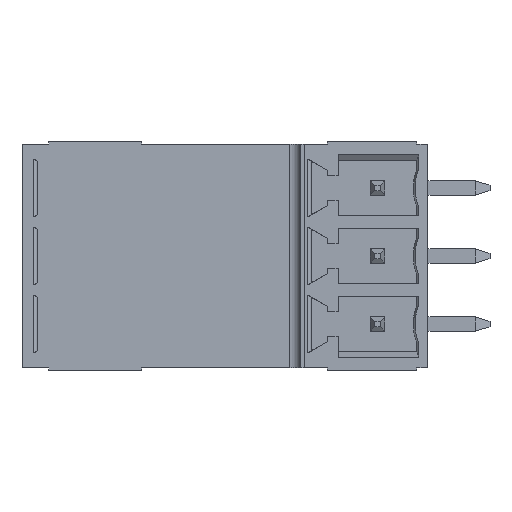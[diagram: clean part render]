
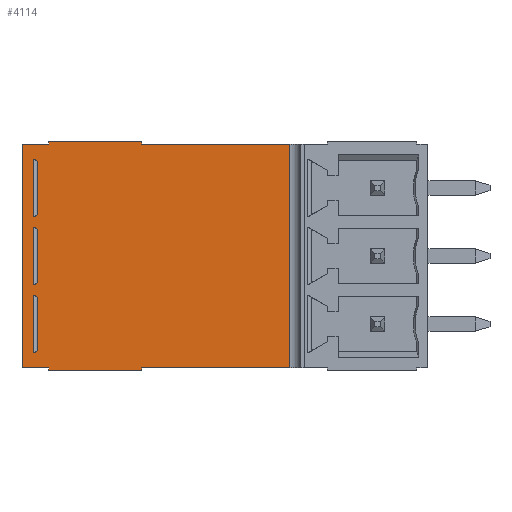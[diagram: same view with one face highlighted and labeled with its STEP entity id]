
A CAD part, left-side view. The second image highlights one B-rep face of the part: STEP entity #4114.
In plain terms, the highlighted planar face has unit normal (-1, 0, 0).
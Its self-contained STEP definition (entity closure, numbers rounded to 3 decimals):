
#1=DIRECTION('',(0.,-0.866,0.5));
#2=VECTOR('',#1,0.231);
#3=CARTESIAN_POINT('',(12.8,22.114,-20.519));
#4=LINE('',#3,#2);
#5=DIRECTION('',(0.,0.,-1.));
#6=VECTOR('',#5,3.);
#7=CARTESIAN_POINT('',(12.8,21.914,-17.404));
#8=LINE('',#7,#6);
#9=DIRECTION('',(0.,0.866,0.5));
#10=VECTOR('',#9,0.231);
#11=CARTESIAN_POINT('',(12.8,21.914,-17.404));
#12=LINE('',#11,#10);
#13=DIRECTION('',(0.,-0.866,0.5));
#14=VECTOR('',#13,0.231);
#15=CARTESIAN_POINT('',(12.8,22.114,-24.329));
#16=LINE('',#15,#14);
#17=DIRECTION('',(0.,0.,-1.));
#18=VECTOR('',#17,3.);
#19=CARTESIAN_POINT('',(12.8,21.914,-21.214));
#20=LINE('',#19,#18);
#21=DIRECTION('',(0.,0.866,0.5));
#22=VECTOR('',#21,0.231);
#23=CARTESIAN_POINT('',(12.8,21.914,-21.214));
#24=LINE('',#23,#22);
#25=DIRECTION('',(0.,0.,-1.));
#26=VECTOR('',#25,12.52);
#27=CARTESIAN_POINT('',(12.8,7.774,-16.454));
#28=LINE('',#27,#26);
#29=DIRECTION('',(0.,1.,0.));
#30=VECTOR('',#29,8.3);
#31=CARTESIAN_POINT('',(12.8,7.774,-28.974));
#32=LINE('',#31,#30);
#33=DIRECTION('',(0.,0.,1.));
#34=VECTOR('',#33,0.15);
#35=CARTESIAN_POINT('',(12.8,21.274,-29.124));
#36=LINE('',#35,#34);
#37=DIRECTION('',(0.,1.,0.));
#38=VECTOR('',#37,1.5);
#39=CARTESIAN_POINT('',(12.8,21.274,-28.974));
#40=LINE('',#39,#38);
#41=DIRECTION('',(0.,0.,1.));
#42=VECTOR('',#41,12.52);
#43=CARTESIAN_POINT('',(12.8,22.774,-28.974));
#44=LINE('',#43,#42);
#45=DIRECTION('',(0.,-1.,0.));
#46=VECTOR('',#45,1.5);
#47=CARTESIAN_POINT('',(12.8,22.774,-16.454));
#48=LINE('',#47,#46);
#49=DIRECTION('',(0.,0.,-1.));
#50=VECTOR('',#49,0.15);
#51=CARTESIAN_POINT('',(12.8,16.074,-16.304));
#52=LINE('',#51,#50);
#53=DIRECTION('',(0.,-1.,0.));
#54=VECTOR('',#53,8.3);
#55=CARTESIAN_POINT('',(12.8,16.074,-16.454));
#56=LINE('',#55,#54);
#57=DIRECTION('',(0.,-0.866,0.5));
#58=VECTOR('',#57,0.231);
#59=CARTESIAN_POINT('',(12.8,22.114,-28.139));
#60=LINE('',#59,#58);
#61=DIRECTION('',(0.,0.,-1.));
#62=VECTOR('',#61,3.);
#63=CARTESIAN_POINT('',(12.8,21.914,-25.024));
#64=LINE('',#63,#62);
#65=DIRECTION('',(0.,0.866,0.5));
#66=VECTOR('',#65,0.231);
#67=CARTESIAN_POINT('',(12.8,21.914,-25.024));
#68=LINE('',#67,#66);
#84=DIRECTION('',(0.,0.,1.));
#85=VECTOR('',#84,3.231);
#86=CARTESIAN_POINT('',(12.8,22.114,-20.519));
#87=LINE('',#86,#85);
#110=DIRECTION('',(0.,0.,1.));
#111=VECTOR('',#110,3.231);
#112=CARTESIAN_POINT('',(12.8,22.114,-24.329));
#113=LINE('',#112,#111);
#140=DIRECTION('',(0.,0.,1.));
#141=VECTOR('',#140,3.231);
#142=CARTESIAN_POINT('',(12.8,22.114,-28.139));
#143=LINE('',#142,#141);
#475=DIRECTION('',(0.,-1.,0.));
#476=VECTOR('',#475,5.2);
#477=CARTESIAN_POINT('',(12.8,21.274,-29.124));
#478=LINE('',#477,#476);
#512=DIRECTION('',(0.,0.,1.));
#513=VECTOR('',#512,0.15);
#514=CARTESIAN_POINT('',(12.8,16.074,-29.124));
#515=LINE('',#514,#513);
#3002=DIRECTION('',(0.,1.,0.));
#3003=VECTOR('',#3002,5.2);
#3004=CARTESIAN_POINT('',(12.8,16.074,-16.304));
#3005=LINE('',#3004,#3003);
#3035=DIRECTION('',(0.,0.,-1.));
#3036=VECTOR('',#3035,0.15);
#3037=CARTESIAN_POINT('',(12.8,21.274,-16.304));
#3038=LINE('',#3037,#3036);
#3087=CARTESIAN_POINT('',(12.8,22.774,-28.974));
#3088=CARTESIAN_POINT('',(12.8,22.774,-16.454));
#3089=VERTEX_POINT('',#3087);
#3090=VERTEX_POINT('',#3088);
#3091=CARTESIAN_POINT('',(12.8,21.274,-16.454));
#3092=VERTEX_POINT('',#3091);
#3093=CARTESIAN_POINT('',(12.8,21.274,-16.304));
#3094=VERTEX_POINT('',#3093);
#3095=CARTESIAN_POINT('',(12.8,16.074,-16.304));
#3096=VERTEX_POINT('',#3095);
#3097=CARTESIAN_POINT('',(12.8,16.074,-16.454));
#3098=VERTEX_POINT('',#3097);
#3099=CARTESIAN_POINT('',(12.8,7.774,-16.454));
#3100=VERTEX_POINT('',#3099);
#3101=CARTESIAN_POINT('',(12.8,7.774,-28.974));
#3102=CARTESIAN_POINT('',(12.8,16.074,-28.974));
#3103=VERTEX_POINT('',#3101);
#3104=VERTEX_POINT('',#3102);
#3105=CARTESIAN_POINT('',(12.8,16.074,-29.124));
#3106=VERTEX_POINT('',#3105);
#3107=CARTESIAN_POINT('',(12.8,21.274,-29.124));
#3108=VERTEX_POINT('',#3107);
#3109=CARTESIAN_POINT('',(12.8,21.274,-28.974));
#3110=VERTEX_POINT('',#3109);
#3111=CARTESIAN_POINT('',(12.8,22.114,-20.519));
#3112=CARTESIAN_POINT('',(12.8,22.114,-17.288));
#3113=VERTEX_POINT('',#3111);
#3114=VERTEX_POINT('',#3112);
#3115=CARTESIAN_POINT('',(12.8,22.114,-28.139));
#3116=CARTESIAN_POINT('',(12.8,22.114,-24.908));
#3117=VERTEX_POINT('',#3115);
#3118=VERTEX_POINT('',#3116);
#3119=CARTESIAN_POINT('',(12.8,22.114,-24.329));
#3120=CARTESIAN_POINT('',(12.8,22.114,-21.098));
#3121=VERTEX_POINT('',#3119);
#3122=VERTEX_POINT('',#3120);
#3825=CARTESIAN_POINT('',(12.8,21.914,-17.404));
#3826=VERTEX_POINT('',#3825);
#3827=CARTESIAN_POINT('',(12.8,21.914,-20.404));
#3828=VERTEX_POINT('',#3827);
#3869=CARTESIAN_POINT('',(12.8,21.914,-21.214));
#3870=VERTEX_POINT('',#3869);
#3871=CARTESIAN_POINT('',(12.8,21.914,-24.214));
#3872=VERTEX_POINT('',#3871);
#4001=CARTESIAN_POINT('',(12.8,21.914,-25.024));
#4002=VERTEX_POINT('',#4001);
#4003=CARTESIAN_POINT('',(12.8,21.914,-28.024));
#4004=VERTEX_POINT('',#4003);
#4053=CARTESIAN_POINT('',(12.8,22.774,
-0.374));
#4054=DIRECTION('',(-1.,0.,0.));
#4055=DIRECTION('',(0.,-1.,0.));
#4056=AXIS2_PLACEMENT_3D('',#4053,#4054,#4055);
#4057=PLANE('',#4056);
#4059=ORIENTED_EDGE('',*,*,#4058,.T.);
#4061=ORIENTED_EDGE('',*,*,#4060,.T.);
#4063=ORIENTED_EDGE('',*,*,#4062,.F.);
#4065=ORIENTED_EDGE('',*,*,#4064,.F.);
#4067=ORIENTED_EDGE('',*,*,#4066,.T.);
#4069=ORIENTED_EDGE('',*,*,#4068,.T.);
#4071=ORIENTED_EDGE('',*,*,#4070,.T.);
#4073=ORIENTED_EDGE('',*,*,#4072,.T.);
#4075=ORIENTED_EDGE('',*,*,#4074,.F.);
#4077=ORIENTED_EDGE('',*,*,#4076,.F.);
#4079=ORIENTED_EDGE('',*,*,#4078,.T.);
#4081=ORIENTED_EDGE('',*,*,#4080,.T.);
#4082=EDGE_LOOP('',(#4059,#4061,#4063,#4065,#4067,#4069,#4071,#4073,#4075,#4077,
#4079,#4081));
#4083=FACE_OUTER_BOUND('',#4082,.F.);
#4085=ORIENTED_EDGE('',*,*,#4084,.T.);
#4087=ORIENTED_EDGE('',*,*,#4086,.F.);
#4089=ORIENTED_EDGE('',*,*,#4088,.T.);
#4091=ORIENTED_EDGE('',*,*,#4090,.F.);
#4092=EDGE_LOOP('',(#4085,#4087,#4089,#4091));
#4093=FACE_BOUND('',#4092,.F.);
#4095=ORIENTED_EDGE('',*,*,#4094,.T.);
#4097=ORIENTED_EDGE('',*,*,#4096,.F.);
#4099=ORIENTED_EDGE('',*,*,#4098,.T.);
#4101=ORIENTED_EDGE('',*,*,#4100,.F.);
#4102=EDGE_LOOP('',(#4095,#4097,#4099,#4101));
#4103=FACE_BOUND('',#4102,.F.);
#4105=ORIENTED_EDGE('',*,*,#4104,.T.);
#4107=ORIENTED_EDGE('',*,*,#4106,.F.);
#4109=ORIENTED_EDGE('',*,*,#4108,.T.);
#4111=ORIENTED_EDGE('',*,*,#4110,.F.);
#4112=EDGE_LOOP('',(#4105,#4107,#4109,#4111));
#4113=FACE_BOUND('',#4112,.F.);
#4114=ADVANCED_FACE('',(#4083,#4093,#4103,#4113),#4057,.T.);
#4058=EDGE_CURVE('',#3100,#3103,#28,.T.);
#4060=EDGE_CURVE('',#3103,#3104,#32,.T.);
#4062=EDGE_CURVE('',#3106,#3104,#515,.T.);
#4064=EDGE_CURVE('',#3108,#3106,#478,.T.);
#4066=EDGE_CURVE('',#3108,#3110,#36,.T.);
#4068=EDGE_CURVE('',#3110,#3089,#40,.T.);
#4070=EDGE_CURVE('',#3089,#3090,#44,.T.);
#4072=EDGE_CURVE('',#3090,#3092,#48,.T.);
#4074=EDGE_CURVE('',#3094,#3092,#3038,.T.);
#4076=EDGE_CURVE('',#3096,#3094,#3005,.T.);
#4078=EDGE_CURVE('',#3096,#3098,#52,.T.);
#4080=EDGE_CURVE('',#3098,#3100,#56,.T.);
#4084=EDGE_CURVE('',#3121,#3872,#16,.T.);
#4086=EDGE_CURVE('',#3870,#3872,#20,.T.);
#4088=EDGE_CURVE('',#3870,#3122,#24,.T.);
#4090=EDGE_CURVE('',#3121,#3122,#113,.T.);
#4094=EDGE_CURVE('',#3113,#3828,#4,.T.);
#4096=EDGE_CURVE('',#3826,#3828,#8,.T.);
#4098=EDGE_CURVE('',#3826,#3114,#12,.T.);
#4100=EDGE_CURVE('',#3113,#3114,#87,.T.);
#4104=EDGE_CURVE('',#3117,#4004,#60,.T.);
#4106=EDGE_CURVE('',#4002,#4004,#64,.T.);
#4108=EDGE_CURVE('',#4002,#3118,#68,.T.);
#4110=EDGE_CURVE('',#3117,#3118,#143,.T.);
